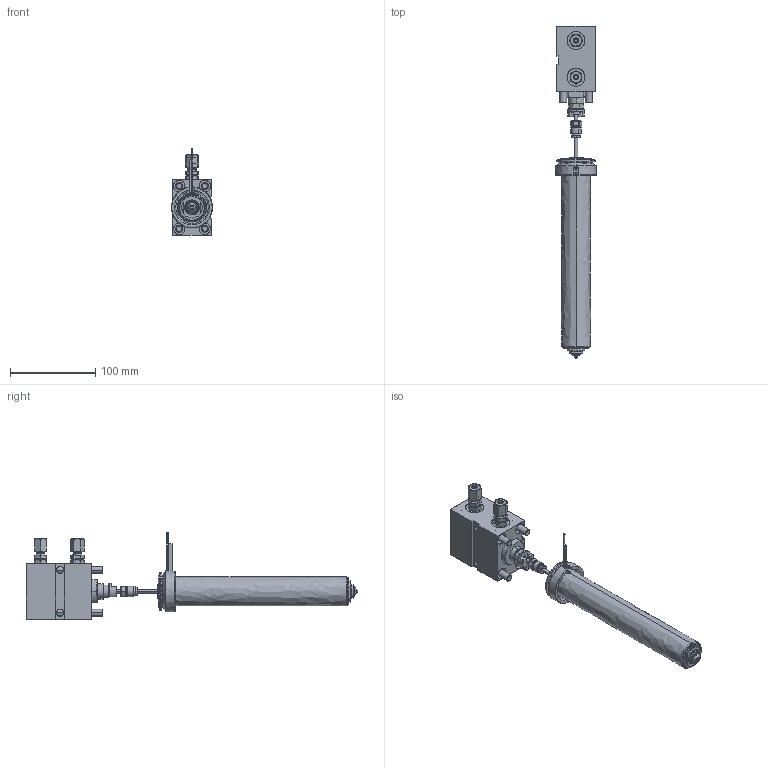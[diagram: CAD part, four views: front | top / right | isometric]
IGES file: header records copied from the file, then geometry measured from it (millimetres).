
Start section: Write IGES format                                    datakit 2008 (c)
Global section: file name: Unknown; native system: DATAKIT Converter; preprocessor: Unknown; author: Unknown; organization: Unknown; date: 950613.180003; units: millimetre
Bounding box: 47.98 x 388.5 x 101.12 mm (x, y, z)
Surface area: 175655.1 mm2 (no closed solid volume)
Topology: 0 solids, 0 shells, 744 faces, 3354 edges, 3340 vertices
Faces by surface type: revolution 468, bspline 276
